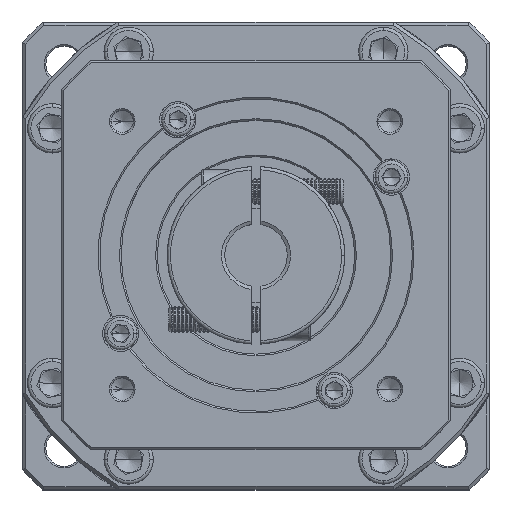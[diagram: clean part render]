
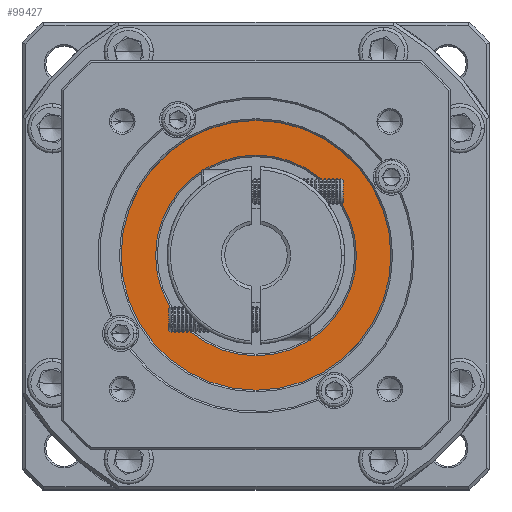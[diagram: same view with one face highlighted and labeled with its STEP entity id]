
A CAD part, top view. The second image highlights one B-rep face of the part: STEP entity #99427.
In plain terms, the highlighted planar face has unit normal (0, 0, 1).
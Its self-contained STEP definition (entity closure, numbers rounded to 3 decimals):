
#1253 = DIRECTION ( 'NONE',  ( 0., 0., 1. ) ) ;
#3402 = CARTESIAN_POINT ( 'NONE',  ( -109.1, 63.773, -36.533 ) ) ;
#4452 = CIRCLE ( 'NONE', #26248, 41. ) ;
#8026 = ORIENTED_EDGE ( 'NONE', *, *, #100108, .T. ) ;
#11302 = EDGE_CURVE ( 'NONE', #120775, #34734, #53205, .T. ) ;
#18393 = ORIENTED_EDGE ( 'NONE', *, *, #133754, .T. ) ;
#21654 = CARTESIAN_POINT ( 'NONE',  ( -109.1, 94.273, -36.533 ) ) ;
#25994 = FACE_OUTER_BOUND ( 'NONE', #95212, .T. ) ;
#26248 = AXIS2_PLACEMENT_3D ( 'NONE', #50529, #113793, #137046 ) ;
#28569 = VERTEX_POINT ( 'NONE', #118496 ) ;
#30207 = CARTESIAN_POINT ( 'NONE',  ( -109.1, 94.273, -36.533 ) ) ;
#34734 = VERTEX_POINT ( 'NONE', #36188 ) ;
#35551 = DIRECTION ( 'NONE',  ( 0., 0., -1. ) ) ;
#36188 = CARTESIAN_POINT ( 'NONE',  ( -109.1, 124.773, -36.533 ) ) ;
#45087 = EDGE_CURVE ( 'NONE', #28569, #67750, #120877, .T. ) ;
#45163 = ORIENTED_EDGE ( 'NONE', *, *, #45087, .T. ) ;
#49265 = CIRCLE ( 'NONE', #105094, 30.5 ) ;
#50529 = CARTESIAN_POINT ( 'NONE',  ( -109.1, 94.273, -36.533 ) ) ;
#52868 = AXIS2_PLACEMENT_3D ( 'NONE', #80012, #35551, #90343 ) ;
#53205 = CIRCLE ( 'NONE', #52868, 30.5 ) ;
#54649 = CARTESIAN_POINT ( 'NONE',  ( -109.1, 94.273, -36.533 ) ) ;
#55273 = AXIS2_PLACEMENT_3D ( 'NONE', #21654, #1253, #119518 ) ;
#60498 = DIRECTION ( 'NONE',  ( 0., 0., 1. ) ) ;
#67750 = VERTEX_POINT ( 'NONE', #81440 ) ;
#71347 = DIRECTION ( 'NONE',  ( 1., 0., 0. ) ) ;
#71378 = AXIS2_PLACEMENT_3D ( 'NONE', #30207, #60498, #71347 ) ;
#74223 = PLANE ( 'NONE',  #55273 ) ;
#76825 = FACE_BOUND ( 'NONE', #81903, .T. ) ;
#77345 = DIRECTION ( 'NONE',  ( 0., 0., -1. ) ) ;
#80012 = CARTESIAN_POINT ( 'NONE',  ( -109.1, 94.273, -36.533 ) ) ;
#81440 = CARTESIAN_POINT ( 'NONE',  ( -150.1, 94.273, -36.533 ) ) ;
#81903 = EDGE_LOOP ( 'NONE', ( #102198, #8026 ) ) ;
#90343 = DIRECTION ( 'NONE',  ( 0., -1., 0. ) ) ;
#95212 = EDGE_LOOP ( 'NONE', ( #45163, #18393 ) ) ;
#99427 = ADVANCED_FACE ( 'NONE', ( #25994, #76825 ), #74223, .T. ) ;
#100108 = EDGE_CURVE ( 'NONE', #34734, #120775, #49265, .T. ) ;
#102198 = ORIENTED_EDGE ( 'NONE', *, *, #11302, .T. ) ;
#105094 = AXIS2_PLACEMENT_3D ( 'NONE', #54649, #77345, #131190 ) ;
#113793 = DIRECTION ( 'NONE',  ( 0., 0., 1. ) ) ;
#118496 = CARTESIAN_POINT ( 'NONE',  ( -68.1, 94.273, -36.533 ) ) ;
#119518 = DIRECTION ( 'NONE',  ( 1., 0., 0. ) ) ;
#120775 = VERTEX_POINT ( 'NONE', #3402 ) ;
#120877 = CIRCLE ( 'NONE', #71378, 41. ) ;
#131190 = DIRECTION ( 'NONE',  ( 0., -1., 0. ) ) ;
#133754 = EDGE_CURVE ( 'NONE', #67750, #28569, #4452, .T. ) ;
#137046 = DIRECTION ( 'NONE',  ( 1., 0., 0. ) ) ;
